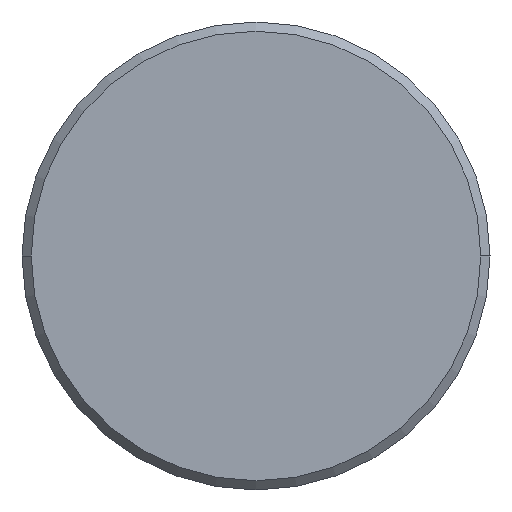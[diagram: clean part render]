
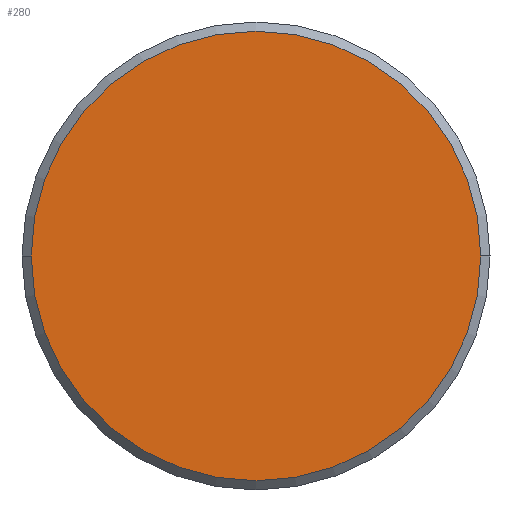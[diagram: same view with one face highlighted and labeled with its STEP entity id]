
A CAD part, left-side view. The second image highlights one B-rep face of the part: STEP entity #280.
In plain terms, the highlighted planar face has unit normal (-1, 0, 0).
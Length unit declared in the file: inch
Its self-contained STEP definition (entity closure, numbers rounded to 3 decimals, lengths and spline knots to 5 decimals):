
#6 = CARTESIAN_POINT ( 'NONE',  ( 0., 0., 0. ) ) ;
#32 = CARTESIAN_POINT ( 'NONE',  ( 0., 0.09756, 0. ) ) ;
#46 = AXIS2_PLACEMENT_3D ( 'NONE', #117, #361, #119 ) ;
#53 = DIRECTION ( 'NONE',  ( -1., 0., 0. ) ) ;
#54 = DIRECTION ( 'NONE',  ( -1., 0., 0. ) ) ;
#68 = AXIS2_PLACEMENT_3D ( 'NONE', #231, #54, #143 ) ;
#72 = EDGE_CURVE ( 'NONE', #242, #337, #73, .T. ) ;
#73 = CIRCLE ( 'NONE', #68, 0.09756 ) ;
#74 = EDGE_LOOP ( 'NONE', ( #229, #123 ) ) ;
#93 = EDGE_CURVE ( 'NONE', #337, #242, #230, .T. ) ;
#97 = CARTESIAN_POINT ( 'NONE',  ( 0., -0.09756, 0. ) ) ;
#117 = CARTESIAN_POINT ( 'NONE',  ( 0., 0., 0. ) ) ;
#119 = DIRECTION ( 'NONE',  ( 0., -1., 0. ) ) ;
#123 = ORIENTED_EDGE ( 'NONE', *, *, #93, .T. ) ;
#143 = DIRECTION ( 'NONE',  ( 0., -1., 0. ) ) ;
#165 = FACE_OUTER_BOUND ( 'NONE', #74, .T. ) ;
#192 = AXIS2_PLACEMENT_3D ( 'NONE', #6, #53, #252 ) ;
#229 = ORIENTED_EDGE ( 'NONE', *, *, #72, .T. ) ;
#230 = CIRCLE ( 'NONE', #192, 0.09756 ) ;
#231 = CARTESIAN_POINT ( 'NONE',  ( 0., 0., 0. ) ) ;
#242 = VERTEX_POINT ( 'NONE', #32 ) ;
#252 = DIRECTION ( 'NONE',  ( 0., -1., 0. ) ) ;
#265 = PLANE ( 'NONE',  #46 ) ;
#280 = ADVANCED_FACE ( 'NONE', ( #165 ), #265, .T. ) ;
#337 = VERTEX_POINT ( 'NONE', #97 ) ;
#361 = DIRECTION ( 'NONE',  ( -1., 0., 0. ) ) ;
